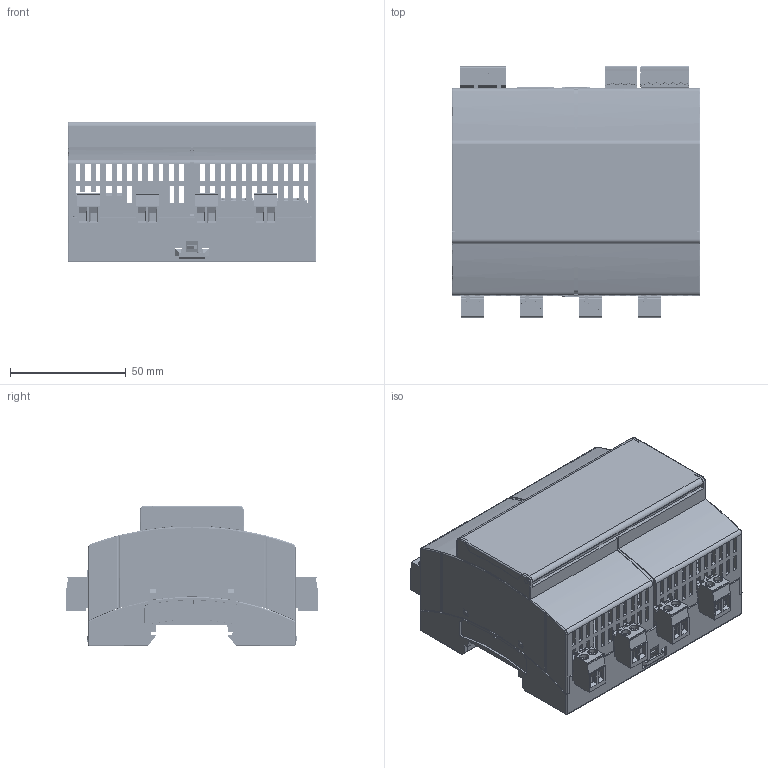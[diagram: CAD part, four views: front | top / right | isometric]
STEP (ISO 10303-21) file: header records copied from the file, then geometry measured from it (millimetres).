
FILE_DESCRIPTION(('FreeCAD Model'),'2;1');
FILE_NAME('Open CASCADE Shape Model','2026-07-06T11:05:57',('Author'),( ''),'Open CASCADE STEP processor 7.8','FreeCAD','Unknown');
FILE_SCHEMA(('AUTOMOTIVE_DESIGN { 1 0 10303 214 1 1 1 1 }'));
Length unit declared in the file: millimetre
Products named in the file (13): Unnamed1; LUCON_4C_20A_V_Power-PCB_simple_Rev_1.5_001; 18933001_001; 18933001_002; 18933001_003; 18933001_004; 18933001_005; 18933001_006; 1878846_MC-1-5-4-ST-3-5_3D1_001; 1916410_MC-1-5-4-ST-3-5_3D1_001; Unterteil_schwarz_2896271_001; Oberteil_grau_bearbeitet_1046366_001; Deckel_original1_001
Assembly tree (12 placements, depth 2):
  Unnamed1
    LUCON_4C_20A_V_Power-PCB_simple_Rev_1.5_001
    18933001_001
    18933001_002
    18933001_003
    18933001_004
    18933001_005
    18933001_006
    1878846_MC-1-5-4-ST-3-5_3D1_001
    1916410_MC-1-5-4-ST-3-5_3D1_001
    Unterteil_schwarz_2896271_001
    Oberteil_grau_bearbeitet_1046366_001
    Deckel_original1_001
Bounding box: 107.6 x 109.4 x 60.8 mm (x, y, z)
Volume: 100883.5 mm3; surface area: 142748.7 mm2
Topology: 70 solids, 75 shells, 8547 faces, 23998 edges, 15808 vertices
Faces by surface type: plane 6535, cylinder 1644, cone 122, bspline 104, torus 100, extrusion 38, sphere 4
Full cylindrical faces by diameter (mm): 0.7 x28, 0.8 x24, 0.889 x8, 1 x24, 1.016 x4, 1.2 x14, 1.4 x12, 1.6 x2, 2 x2, 3.2 x2
Entity records: 389143 total; most frequent: CARTESIAN_POINT 96780, ORIENTED_EDGE 47988, DIRECTION 43840, EDGE_CURVE 23994, VECTOR 19320, LINE 19282, VERTEX_POINT 15808, AXIS2_PLACEMENT_3D 12260
